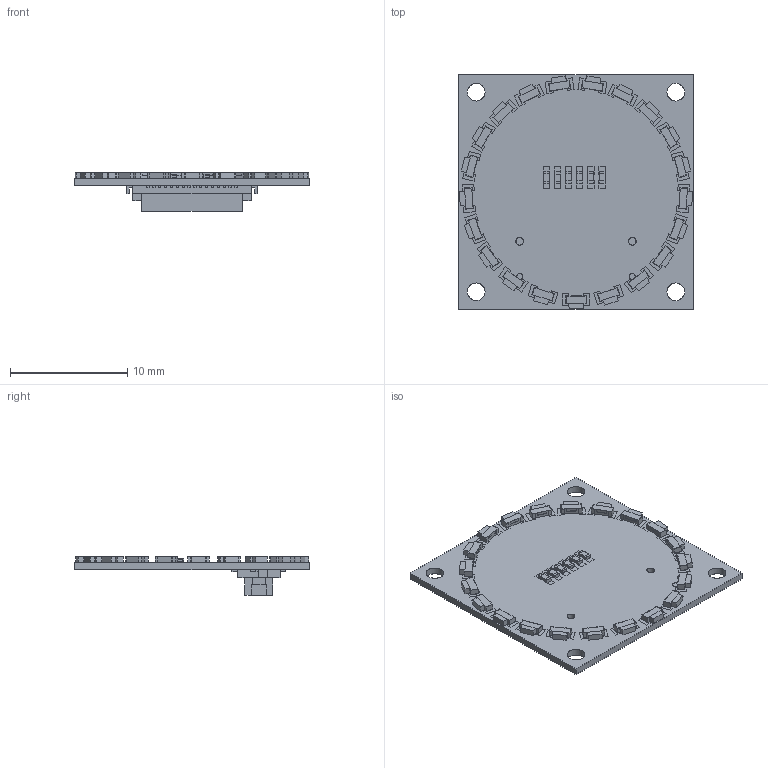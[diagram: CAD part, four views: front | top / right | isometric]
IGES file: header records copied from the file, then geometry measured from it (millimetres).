
Global section: file name: Filename.iges; native system: Open CASCADE 7.4; preprocessor: Open CASCADE IGES processor 7.4; date: 20200715.001241; units: millimetre
Bounding box: 20 x 20 x 3.3 mm (x, y, z)
Surface area: 2419.2 mm2 (no closed solid volume)
Topology: 0 solids, 0 shells, 2682 faces, 12432 edges, 12398 vertices
Faces by surface type: plane 2666, revolution 16
